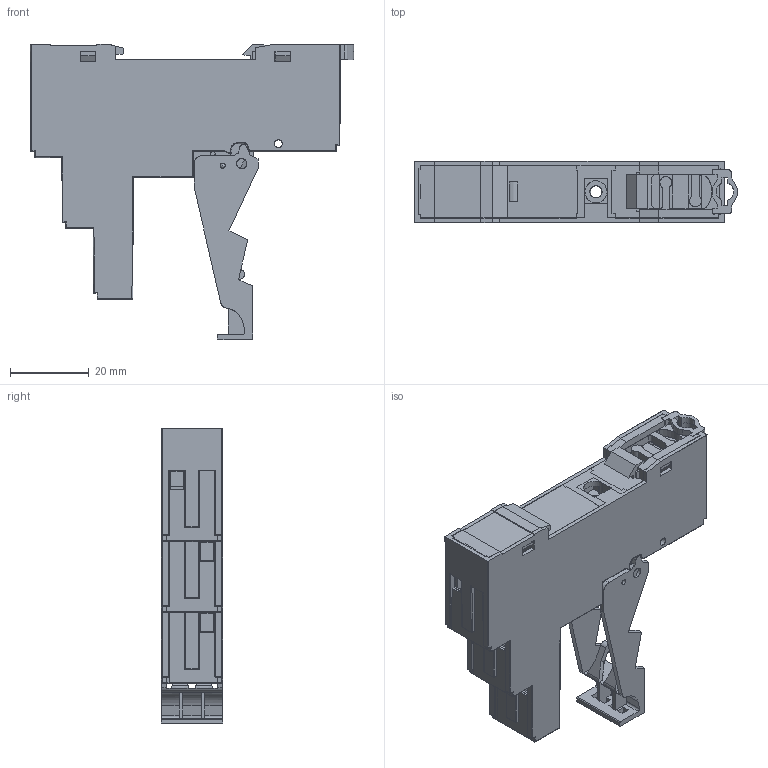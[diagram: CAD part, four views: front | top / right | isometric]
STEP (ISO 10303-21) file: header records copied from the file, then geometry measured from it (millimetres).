
FILE_DESCRIPTION(('STEP AP214'),'2;1');
FILE_NAME('95933_with_095913.stp','2011-12-13T11:24:38',(''),(''),'2007.1.106','THINKDESIGN','');
FILE_SCHEMA(('AUTOMOTIVE_DESIGN'));
Products named in the file (1): None
Bounding box: 82.14 x 15.5 x 75.11 mm (x, y, z)
Surface area: 21507.4 mm2 (no closed solid volume)
Topology: 0 solids, 0 shells, 920 faces, 5390 edges, 5345 vertices
Faces by surface type: plane 596, cylinder 235, bspline 89
Full cylindrical faces by diameter (mm): 1.2 x4, 1.3 x2, 2 x2, 2.3 x5, 2.5 x2, 2.6 x2, 3 x7, 3.6 x3, 5.3 x5, 5.6 x1, 6 x1
Entity records: 59050 total; most frequent: CARTESIAN_POINT 20827, DIRECTION 6757, COMPOSITE_CURVE_SEGMENT 5350, TRIMMED_CURVE 4584, VECTOR 4073, LINE 4073, AXIS2_PLACEMENT_3D 1342, OUTER_BOUNDARY_CURVE 920
